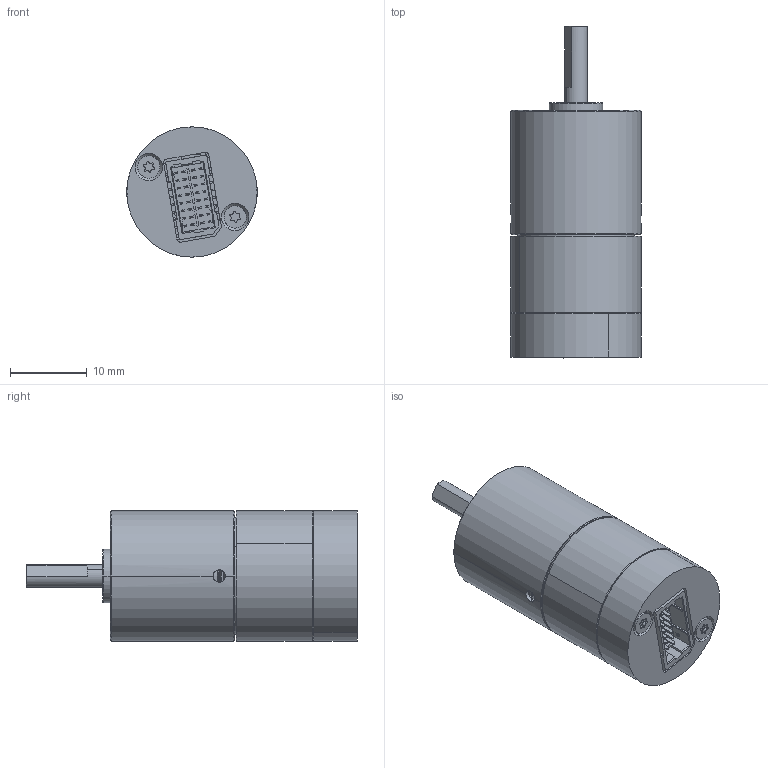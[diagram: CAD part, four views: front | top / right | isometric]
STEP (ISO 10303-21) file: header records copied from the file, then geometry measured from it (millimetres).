
FILE_DESCRIPTION (( 'STEP AP214' ), '1' );
FILE_NAME ('LR17-030A21E1A00-PiezoMotor.STEP', '2017-06-15T12:03:30', ( '' ), ( '' ), 'SwSTEP 2.0', 'SolidWorks 2016', '' );
FILE_SCHEMA (( 'AUTOMOTIVE_DESIGN' ));
Length unit declared in the file: millimetre
Products named in the file (5): LR17_MotorShaft-PiezoMotor; LR17-030A21E1A00-Motor-PiezoMotor; LR17-030A21E1A00-PiezoMotor
Assembly tree (2 placements, depth 2):
  LR17_MotorShaft-PiezoMotor
  LR17-030A21E1A00-Motor-PiezoMotor
  LR17-030A21E1A00-PiezoMotor
    LR17-030A21E1A00-Motor-PiezoMotor
    LR17_MotorShaft-PiezoMotor
Bounding box: 17 x 43.29 x 17 mm (x, y, z)
Volume: 3875.4 mm3; surface area: 5557 mm2
Topology: 3 solids, 7 shells, 1661 faces, 4632 edges, 2967 vertices
Faces by surface type: plane 1104, cylinder 441, cone 86, bspline 24, torus 6
Entity records: 62944 total; most frequent: CARTESIAN_POINT 15069, ORIENTED_EDGE 9228, DIRECTION 8348, EDGE_CURVE 4614, VECTOR 3430, LINE 3430, VERTEX_POINT 2967, AXIS2_PLACEMENT_3D 2459
